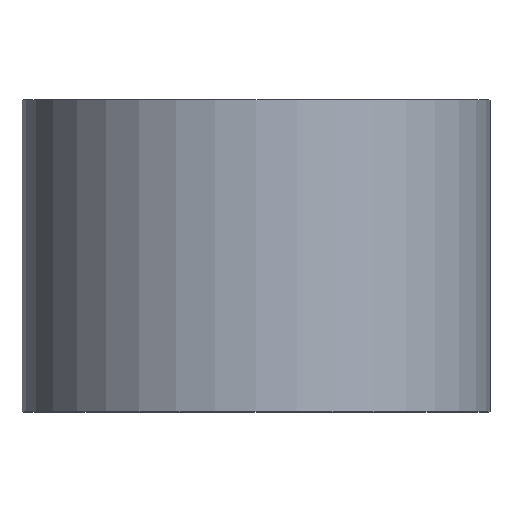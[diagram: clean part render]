
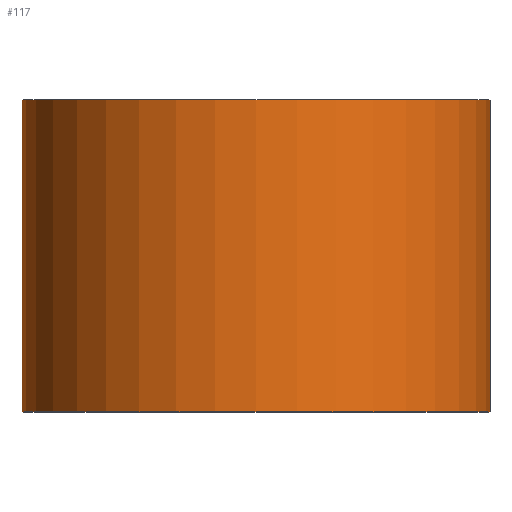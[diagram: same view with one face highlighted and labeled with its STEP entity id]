
A CAD part, top view. The second image highlights one B-rep face of the part: STEP entity #117.
In plain terms, the highlighted cylindrical face has radius 9 mm (diameter 18 mm), a partial arc.
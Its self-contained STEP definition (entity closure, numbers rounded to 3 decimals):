
#13 = DIRECTION ( 'NONE',  ( -1., 0., 0. ) ) ;
#20 = DIRECTION ( 'NONE',  ( 0., 1., 0. ) ) ;
#23 = VERTEX_POINT ( 'NONE', #249 ) ;
#29 = VECTOR ( 'NONE', #113, 1000. ) ;
#30 = ORIENTED_EDGE ( 'NONE', *, *, #56, .T. ) ;
#40 = ORIENTED_EDGE ( 'NONE', *, *, #149, .F. ) ;
#41 = CARTESIAN_POINT ( 'NONE',  ( 9., 12., 0. ) ) ;
#45 = CARTESIAN_POINT ( 'NONE',  ( -9., 0., 0. ) ) ;
#56 = EDGE_CURVE ( 'NONE', #237, #23, #131, .T. ) ;
#65 = CIRCLE ( 'NONE', #221, 9. ) ;
#67 = ORIENTED_EDGE ( 'NONE', *, *, #242, .T. ) ;
#69 = CARTESIAN_POINT ( 'NONE',  ( -9., 0., 0. ) ) ;
#74 = VERTEX_POINT ( 'NONE', #41 ) ;
#86 = DIRECTION ( 'NONE',  ( -1., 0., 0. ) ) ;
#97 = VERTEX_POINT ( 'NONE', #290 ) ;
#108 = EDGE_CURVE ( 'NONE', #237, #97, #275, .T. ) ;
#113 = DIRECTION ( 'NONE',  ( 0., 1., 0. ) ) ;
#114 = CYLINDRICAL_SURFACE ( 'NONE', #286, 9. ) ;
#117 = ADVANCED_FACE ( 'NONE', ( #215 ), #114, .T. ) ;
#129 = DIRECTION ( 'NONE',  ( -1., 0., 0. ) ) ;
#131 = CIRCLE ( 'NONE', #190, 9. ) ;
#144 = DIRECTION ( 'NONE',  ( 0., 1., 0. ) ) ;
#149 = EDGE_CURVE ( 'NONE', #97, #74, #65, .T. ) ;
#155 = ORIENTED_EDGE ( 'NONE', *, *, #108, .F. ) ;
#163 = CARTESIAN_POINT ( 'NONE',  ( 9., 0., 0. ) ) ;
#190 = AXIS2_PLACEMENT_3D ( 'NONE', #247, #228, #129 ) ;
#215 = FACE_OUTER_BOUND ( 'NONE', #262, .T. ) ;
#221 = AXIS2_PLACEMENT_3D ( 'NONE', #251, #256, #13 ) ;
#228 = DIRECTION ( 'NONE',  ( 0., 1., 0. ) ) ;
#229 = CARTESIAN_POINT ( 'NONE',  ( 0., 0., 0. ) ) ;
#237 = VERTEX_POINT ( 'NONE', #69 ) ;
#242 = EDGE_CURVE ( 'NONE', #23, #74, #287, .T. ) ;
#247 = CARTESIAN_POINT ( 'NONE',  ( 0., 0., 0. ) ) ;
#249 = CARTESIAN_POINT ( 'NONE',  ( 9., 0., 0. ) ) ;
#251 = CARTESIAN_POINT ( 'NONE',  ( 0., 12., 0. ) ) ;
#256 = DIRECTION ( 'NONE',  ( 0., 1., 0. ) ) ;
#258 = VECTOR ( 'NONE', #20, 1000. ) ;
#262 = EDGE_LOOP ( 'NONE', ( #30, #67, #40, #155 ) ) ;
#275 = LINE ( 'NONE', #45, #258 ) ;
#286 = AXIS2_PLACEMENT_3D ( 'NONE', #229, #144, #86 ) ;
#287 = LINE ( 'NONE', #163, #29 ) ;
#290 = CARTESIAN_POINT ( 'NONE',  ( -9., 12., 0. ) ) ;
